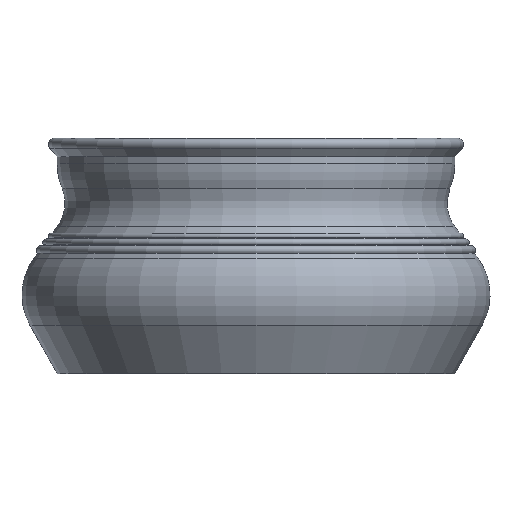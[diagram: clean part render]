
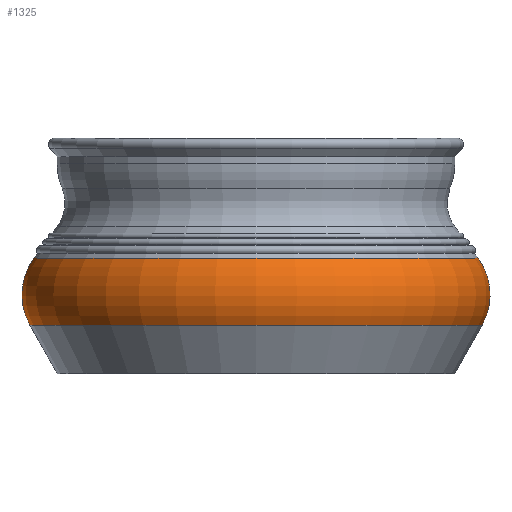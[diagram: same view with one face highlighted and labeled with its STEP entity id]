
A CAD part, front view. The second image highlights one B-rep face of the part: STEP entity #1325.
In plain terms, the highlighted toroidal (fillet/blend) face has major radius 146.641 mm and minor radius 52.359 mm.
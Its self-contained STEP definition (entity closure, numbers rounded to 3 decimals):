
#22=TOROIDAL_SURFACE('',#1505,146.641,52.359);
#166=FACE_OUTER_BOUND('',#284,.T.);
#284=EDGE_LOOP('',(#1208,#1209,#1210,#1211));
#526=CIRCLE('',#1467,192.263);
#549=CIRCLE('',#1506,188.836);
#550=CIRCLE('',#1507,52.359);
#653=VERTEX_POINT('',#2240);
#669=VERTEX_POINT('',#2303);
#818=EDGE_CURVE('',#653,#653,#526,.T.);
#849=EDGE_CURVE('',#669,#669,#549,.T.);
#850=EDGE_CURVE('',#669,#653,#550,.T.);
#1208=ORIENTED_EDGE('',*,*,#849,.F.);
#1209=ORIENTED_EDGE('',*,*,#850,.T.);
#1210=ORIENTED_EDGE('',*,*,#818,.T.);
#1211=ORIENTED_EDGE('',*,*,#850,.F.);
#1325=ADVANCED_FACE('',(#166),#22,.T.);
#1467=AXIS2_PLACEMENT_3D('',#2241,#1837,#1838);
#1505=AXIS2_PLACEMENT_3D('',#2302,#1921,#1922);
#1506=AXIS2_PLACEMENT_3D('',#2304,#1923,#1924);
#1507=AXIS2_PLACEMENT_3D('',#2305,#1925,#1926);
#1837=DIRECTION('center_axis',(0.,0.,1.));
#1838=DIRECTION('ref_axis',(1.,0.,0.));
#1921=DIRECTION('center_axis',(0.,0.,1.));
#1922=DIRECTION('ref_axis',(1.,0.,0.));
#1923=DIRECTION('center_axis',(0.,0.,1.));
#1924=DIRECTION('ref_axis',(1.,0.,0.));
#1925=DIRECTION('center_axis',(0.,-1.,0.));
#1926=DIRECTION('ref_axis',(-1.,0.,0.));
#2240=CARTESIAN_POINT('',(-192.263,0.,41.308));
#2241=CARTESIAN_POINT('Origin',(0.,0.,41.308));
#2302=CARTESIAN_POINT('Origin',(0.,0.,67.));
#2303=CARTESIAN_POINT('',(-188.836,0.,98.));
#2304=CARTESIAN_POINT('Origin',(0.,0.,98.));
#2305=CARTESIAN_POINT('Origin',(-146.641,0.,
67.));
